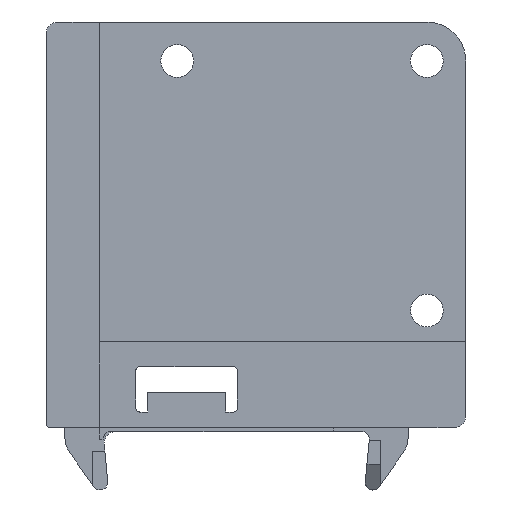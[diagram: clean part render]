
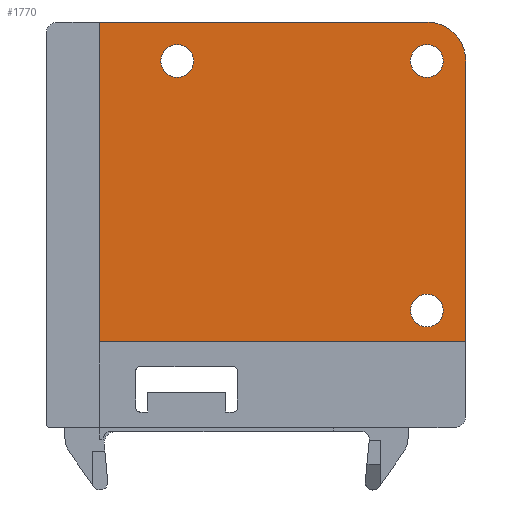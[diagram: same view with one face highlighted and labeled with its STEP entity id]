
A CAD part, front view. The second image highlights one B-rep face of the part: STEP entity #1770.
In plain terms, the highlighted planar face has unit normal (0, -1, 0).
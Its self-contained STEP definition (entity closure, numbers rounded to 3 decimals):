
#2 = VECTOR ( 'NONE', #3433, 1000. ) ;
#3 = VECTOR ( 'NONE', #3408, 1000. ) ;
#5 = AXIS2_PLACEMENT_3D ( 'NONE', #3449, #3448, #3447 ) ;
#8 = CIRCLE ( 'NONE', #37, 2.1 ) ;
#15 = CIRCLE ( 'NONE', #5, 2.1 ) ;
#16 = AXIS2_PLACEMENT_3D ( 'NONE', #3445, #3444, #3443 ) ;
#28 = AXIS2_PLACEMENT_3D ( 'NONE', #3429, #3428, #3427 ) ;
#33 = VECTOR ( 'NONE', #3473, 1000. ) ;
#37 = AXIS2_PLACEMENT_3D ( 'NONE', #3438, #3437, #3436 ) ;
#58 = CIRCLE ( 'NONE', #16, 2.1 ) ;
#62 = VECTOR ( 'NONE', #3426, 1000. ) ;
#65 = CIRCLE ( 'NONE', #28, 5. ) ;
#201 = AXIS2_PLACEMENT_3D ( 'NONE', #917, #923, #912 ) ;
#912 = DIRECTION ( 'NONE',  ( -1., 0., 0. ) ) ;
#913 = FACE_OUTER_BOUND ( 'NONE', #972, .T. ) ;
#916 = FACE_BOUND ( 'NONE', #971, .T. ) ;
#917 = CARTESIAN_POINT ( 'NONE',  ( -48.3, 0., -46.5 ) ) ;
#919 = FACE_BOUND ( 'NONE', #983, .T. ) ;
#920 = PLANE ( 'NONE',  #201 ) ;
#923 = DIRECTION ( 'NONE',  ( 0., -1., 0. ) ) ;
#925 = FACE_BOUND ( 'NONE', #982, .T. ) ;
#971 = EDGE_LOOP ( 'NONE', ( #4409, #4414 ) ) ;
#972 = EDGE_LOOP ( 'NONE', ( #4417, #4418, #4421, #4422, #4425 ) ) ;
#982 = EDGE_LOOP ( 'NONE', ( #4407, #4408 ) ) ;
#983 = EDGE_LOOP ( 'NONE', ( #4403, #4404 ) ) ;
#1201 = CARTESIAN_POINT ( 'NONE',  ( -2.1, 0., -32. ) ) ;
#1202 = CARTESIAN_POINT ( 'NONE',  ( -2.1, 0., 0. ) ) ;
#1203 = CARTESIAN_POINT ( 'NONE',  ( 2.1, 0., -32. ) ) ;
#1204 = CARTESIAN_POINT ( 'NONE',  ( -34.1, 0., 0. ) ) ;
#1205 = CARTESIAN_POINT ( 'NONE',  ( 2.1, 0., 0. ) ) ;
#1207 = CARTESIAN_POINT ( 'NONE',  ( -29.9, 0., 0. ) ) ;
#1318 = CARTESIAN_POINT ( 'NONE',  ( 5., 0., -36. ) ) ;
#1320 = CARTESIAN_POINT ( 'NONE',  ( 5., 0., 0. ) ) ;
#1331 = CARTESIAN_POINT ( 'NONE',  ( -42., 0., -36. ) ) ;
#1332 = CARTESIAN_POINT ( 'NONE',  ( -42., 0., 5. ) ) ;
#1333 = CARTESIAN_POINT ( 'NONE',  ( 0., 0., 5. ) ) ;
#1458 = EDGE_CURVE ( 'NONE', #2304, #2302, #3418, .T. ) ;
#1471 = EDGE_CURVE ( 'NONE', #2290, #2291, #3476, .T. ) ;
#1478 = EDGE_CURVE ( 'NONE', #2434, #2437, #15, .T. ) ;
#1479 = EDGE_CURVE ( 'NONE', #2436, #2440, #58, .T. ) ;
#1480 = EDGE_CURVE ( 'NONE', #2438, #2441, #8, .T. ) ;
#1481 = EDGE_CURVE ( 'NONE', #2291, #2304, #3440, .T. ) ;
#1482 = EDGE_CURVE ( 'NONE', #2302, #2289, #65, .T. ) ;
#1483 = EDGE_CURVE ( 'NONE', #2289, #2290, #3450, .T. ) ;
#1770 = ADVANCED_FACE ( 'NONE', ( #919, #925, #916, #913 ), #920, .T. ) ;
#1884 = EDGE_CURVE ( 'NONE', #2441, #2438, #3628, .T. ) ;
#1887 = EDGE_CURVE ( 'NONE', #2440, #2436, #3794, .T. ) ;
#1895 = EDGE_CURVE ( 'NONE', #2437, #2434, #3837, .T. ) ;
#2289 = VERTEX_POINT ( 'NONE', #1333 ) ;
#2290 = VERTEX_POINT ( 'NONE', #1332 ) ;
#2291 = VERTEX_POINT ( 'NONE', #1331 ) ;
#2302 = VERTEX_POINT ( 'NONE', #1320 ) ;
#2304 = VERTEX_POINT ( 'NONE', #1318 ) ;
#2434 = VERTEX_POINT ( 'NONE', #1207 ) ;
#2436 = VERTEX_POINT ( 'NONE', #1205 ) ;
#2437 = VERTEX_POINT ( 'NONE', #1204 ) ;
#2438 = VERTEX_POINT ( 'NONE', #1203 ) ;
#2440 = VERTEX_POINT ( 'NONE', #1202 ) ;
#2441 = VERTEX_POINT ( 'NONE', #1201 ) ;
#3408 = DIRECTION ( 'NONE',  ( 0., 0., 1. ) ) ;
#3418 = LINE ( 'NONE', #3434, #3 ) ;
#3426 = DIRECTION ( 'NONE',  ( -1., 0., 0. ) ) ;
#3427 = DIRECTION ( 'NONE',  ( -1., 0., 0. ) ) ;
#3428 = DIRECTION ( 'NONE',  ( 0., -1., 0. ) ) ;
#3429 = CARTESIAN_POINT ( 'NONE',  ( 0., 0., 0. ) ) ;
#3433 = DIRECTION ( 'NONE',  ( 1., 0., 0. ) ) ;
#3434 = CARTESIAN_POINT ( 'NONE',  ( 5., 0., -45.5 ) ) ;
#3436 = DIRECTION ( 'NONE',  ( 1., 0., 0. ) ) ;
#3437 = DIRECTION ( 'NONE',  ( 0., -1., 0. ) ) ;
#3438 = CARTESIAN_POINT ( 'NONE',  ( 0., 0., -32. ) ) ;
#3440 = LINE ( 'NONE', #3452, #2 ) ;
#3442 = CARTESIAN_POINT ( 'NONE',  ( -47.3, 0., 5. ) ) ;
#3443 = DIRECTION ( 'NONE',  ( 1., 0., 0. ) ) ;
#3444 = DIRECTION ( 'NONE',  ( 0., -1., 0. ) ) ;
#3445 = CARTESIAN_POINT ( 'NONE',  ( 0., 0., 0. ) ) ;
#3447 = DIRECTION ( 'NONE',  ( 1., 0., 0. ) ) ;
#3448 = DIRECTION ( 'NONE',  ( 0., -1., 0. ) ) ;
#3449 = CARTESIAN_POINT ( 'NONE',  ( -32., 0., 0. ) ) ;
#3450 = LINE ( 'NONE', #3442, #62 ) ;
#3452 = CARTESIAN_POINT ( 'NONE',  ( 5., 0., -36. ) ) ;
#3473 = DIRECTION ( 'NONE',  ( 0., 0., -1. ) ) ;
#3475 = CARTESIAN_POINT ( 'NONE',  ( -42., 0., 5. ) ) ;
#3476 = LINE ( 'NONE', #3475, #33 ) ;
#3628 = CIRCLE ( 'NONE', #3840, 2.1 ) ;
#3763 = AXIS2_PLACEMENT_3D ( 'NONE', #5084, #5083, #5082 ) ;
#3794 = CIRCLE ( 'NONE', #3763, 2.1 ) ;
#3836 = AXIS2_PLACEMENT_3D ( 'NONE', #5049, #5048, #5047 ) ;
#3837 = CIRCLE ( 'NONE', #3836, 2.1 ) ;
#3840 = AXIS2_PLACEMENT_3D ( 'NONE', #5098, #5096, #5095 ) ;
#4403 = ORIENTED_EDGE ( 'NONE', *, *, #1478, .F. ) ;
#4404 = ORIENTED_EDGE ( 'NONE', *, *, #1895, .F. ) ;
#4407 = ORIENTED_EDGE ( 'NONE', *, *, #1479, .F. ) ;
#4408 = ORIENTED_EDGE ( 'NONE', *, *, #1887, .F. ) ;
#4409 = ORIENTED_EDGE ( 'NONE', *, *, #1480, .F. ) ;
#4414 = ORIENTED_EDGE ( 'NONE', *, *, #1884, .F. ) ;
#4417 = ORIENTED_EDGE ( 'NONE', *, *, #1471, .T. ) ;
#4418 = ORIENTED_EDGE ( 'NONE', *, *, #1481, .T. ) ;
#4421 = ORIENTED_EDGE ( 'NONE', *, *, #1458, .T. ) ;
#4422 = ORIENTED_EDGE ( 'NONE', *, *, #1482, .T. ) ;
#4425 = ORIENTED_EDGE ( 'NONE', *, *, #1483, .T. ) ;
#5047 = DIRECTION ( 'NONE',  ( 1., 0., 0. ) ) ;
#5048 = DIRECTION ( 'NONE',  ( 0., -1., 0. ) ) ;
#5049 = CARTESIAN_POINT ( 'NONE',  ( -32., 0., 0. ) ) ;
#5082 = DIRECTION ( 'NONE',  ( 1., 0., 0. ) ) ;
#5083 = DIRECTION ( 'NONE',  ( 0., -1., 0. ) ) ;
#5084 = CARTESIAN_POINT ( 'NONE',  ( 0., 0., 0. ) ) ;
#5095 = DIRECTION ( 'NONE',  ( 1., 0., 0. ) ) ;
#5096 = DIRECTION ( 'NONE',  ( 0., -1., 0. ) ) ;
#5098 = CARTESIAN_POINT ( 'NONE',  ( 0., 0., -32. ) ) ;
